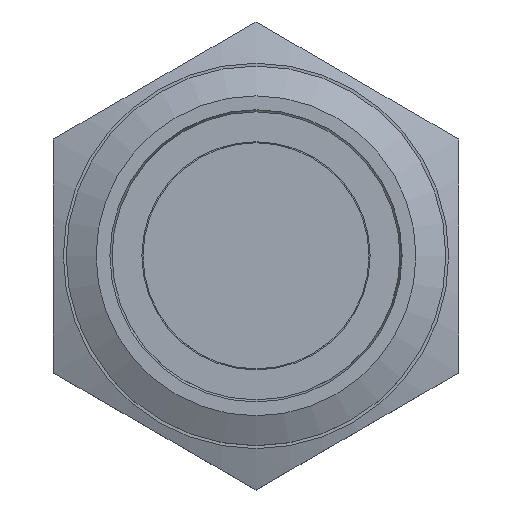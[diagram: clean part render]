
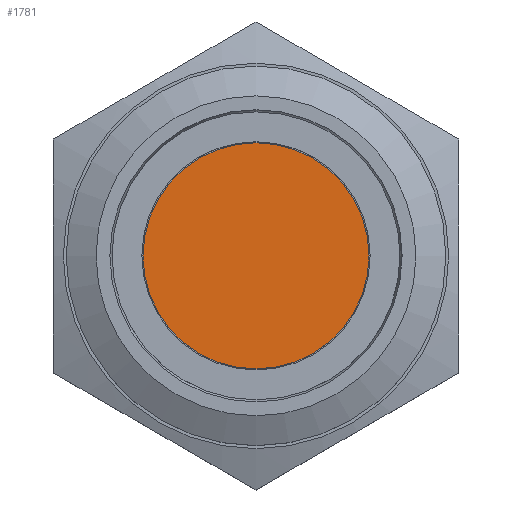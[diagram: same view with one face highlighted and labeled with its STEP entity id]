
A CAD part, top view. The second image highlights one B-rep face of the part: STEP entity #1781.
In plain terms, the highlighted planar face has unit normal (0, 0, 1).
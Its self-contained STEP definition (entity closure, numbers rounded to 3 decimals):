
#1022=FACE_OUTER_BOUND('',#3474,.T.);
#1781=ADVANCED_FACE('',(#1022),#2439,.T.);
#2439=PLANE('',#15822);
#3474=EDGE_LOOP('',(#7773));
#3701=CIRCLE('',#15820,5.3);
#7773=ORIENTED_EDGE('',*,*,#11264,.T.);
#9204=VERTEX_POINT('',#26501);
#11264=EDGE_CURVE('',#9204,#9204,#3701,.T.);
#15820=AXIS2_PLACEMENT_3D('',#26500,#19501,#19502);
#15822=AXIS2_PLACEMENT_3D('',#26503,#19505,#19506);
#19501=DIRECTION('',(0.,0.,1.));
#19502=DIRECTION('',(0.,-1.,0.));
#19505=DIRECTION('',(0.,0.,1.));
#19506=DIRECTION('',(-1.,0.,0.));
#26500=CARTESIAN_POINT('',(0.,0.,28.3));
#26501=CARTESIAN_POINT('',(0.,-5.3,28.3));
#26503=CARTESIAN_POINT('',(0.,0.,28.3));
